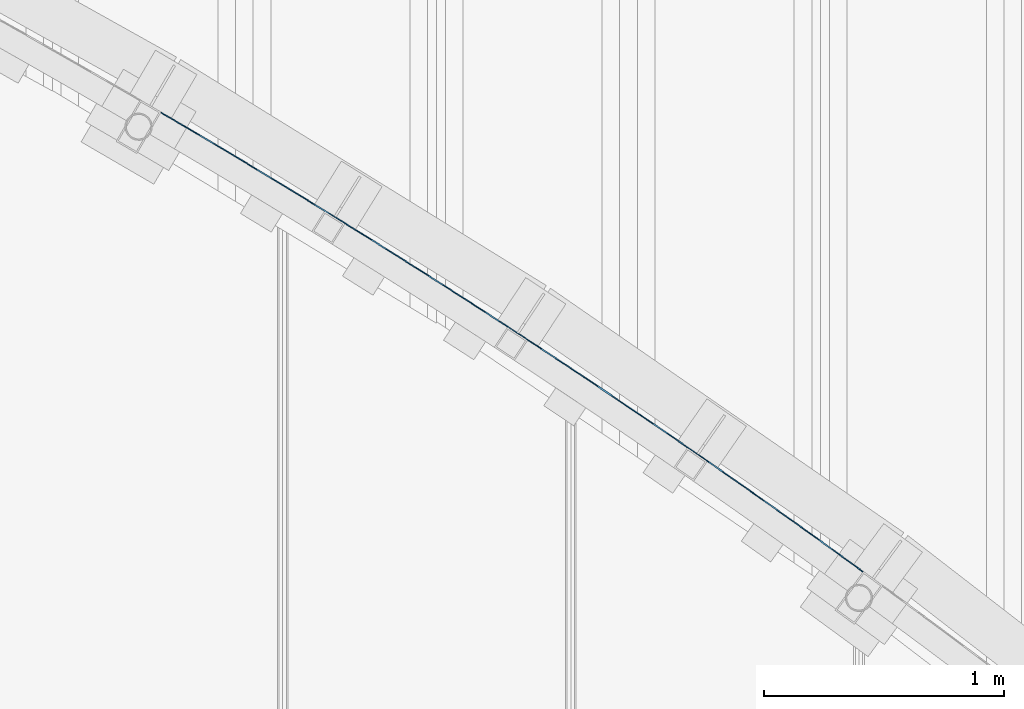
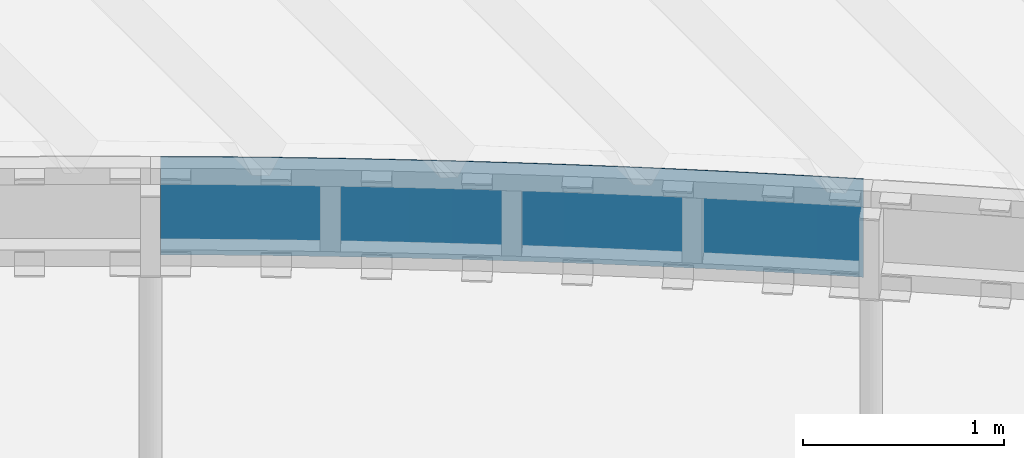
# One storey, part 16 of 98: 1 beam.
"""IFC2X3 building model written with IfcOpenShell, lengths in millimetres."""

from ifc_helpers import new_model, entity, si_unit, converted_unit, derived_unit, direction, frame, origin_with_axes, place, context, subcontext, project, spatial, faceted_brep, material, type_object, element, save


model = new_model("IFC2X3")

# Units and contexts
model_context = context("Model", 3, precision=0.01, world=frame((0.0, 4.29681676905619e-09, 0.0)), true_north=direction((4.01073788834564e-13, 1.0)))
plan_context = context("Plan", 3, precision=0.01, world=frame((0.0, 4.29681676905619e-09, 0.0)), true_north=direction((4.01073788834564e-13, 1.0)))
body_context = subcontext(model_context, "Body", "Model", "MODEL_VIEW")
ifc_project = project(units=[converted_unit("PLANEANGLEUNIT", "DEGREE", entity("IfcPositiveLengthMeasure", 0.0174532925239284), si_unit("PLANEANGLEUNIT", "RADIAN"), dimensions=[0, 0, 0, 0, 0, 0, 0]), si_unit("AREAUNIT", "SQUARE_METRE"), si_unit("LENGTHUNIT", "METRE", prefix="MILLI"), si_unit("MASSUNIT", "GRAM", prefix="KILO"), si_unit("POWERUNIT", "WATT"), si_unit("PRESSUREUNIT", "PASCAL"), si_unit("FORCEUNIT", "NEWTON", prefix="KILO"), si_unit("ELECTRICCURRENTUNIT", "AMPERE"), si_unit("THERMODYNAMICTEMPERATUREUNIT", "DEGREE_CELSIUS"), si_unit("TIMEUNIT", "SECOND"), si_unit("VOLUMEUNIT", "CUBIC_METRE"), derived_unit("LINEARVELOCITYUNIT", [(si_unit("LENGTHUNIT", "METRE"), 1), (si_unit("TIMEUNIT", "SECOND"), -1)]), derived_unit("VOLUMETRICFLOWRATEUNIT", [(si_unit("VOLUMEUNIT", "CUBIC_METRE"), 1), (si_unit("TIMEUNIT", "SECOND"), -1)]), derived_unit("THERMALTRANSMITTANCEUNIT", [(si_unit("POWERUNIT", "WATT"), 1), (si_unit("THERMODYNAMICTEMPERATUREUNIT", "KELVIN"), -1), (si_unit("AREAUNIT", "SQUARE_METRE"), -1)])], contexts=[model_context, plan_context])

# Site, building, storey
site_placement = place(None, frame((0.0, -4.29681676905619e-09, 0.0), z_axis=(0.0, 0.0, 1.0), x_axis=(1.0, 0.0, 0.0)))
site = spatial("IfcSite", under=ifc_project, at=site_placement, Name="Gardermoen", CompositionType="ELEMENT")
building_placement = place(site_placement, frame((0.0, 4.29681676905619e-09, 0.0), z_axis=(0.0, 0.0, 1.0), x_axis=(1.0, 0.0, 0.0)))
building = spatial("IfcBuilding", under=site, at=building_placement, Name="TS", CompositionType="ELEMENT")
storey_placement = place(building_placement, origin_with_axes())
storey = spatial("IfcBuildingStorey", under=building, at=storey_placement, Name="D", CompositionType="ELEMENT", Elevation=0.0)

# Beam
ifc_material = material(Name="STEEL/S355")
beam_type = type_object("IfcBeamType", Name="4*595", PredefinedType="NOTDEFINED")
beam_placement = place(storey_placement, frame((520130.490830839, 410612.540894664, 206802.5), z_axis=(0.548512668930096, 0.836142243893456, 0.0), x_axis=(0.836142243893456, -0.548512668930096, 0.0)))
element("IfcBeam", 1, at=beam_placement, inside=storey, type_object=beam_type, material=ifc_material, Name="STÅLBJELKE", ObjectType="4*595", context=body_context, shape_type="Brep", body=[
    faceted_brep([(0.100595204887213, 297.5, -1.9974685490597), (0.100595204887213, -297.5, -1.9974685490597), (-43.9060789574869, -297.5, -4.25810577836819), (-43.9060789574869, 297.5, -4.25810577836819), (-0.100595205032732, -297.5, 1.99746854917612), (-44.1190507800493, -297.5, -0.263773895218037), (-0.100595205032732, 297.5, 1.99746854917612), (-44.1190507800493, 297.5, -0.263773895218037), (69.8661052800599, 297.5, 5.45049788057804), (70.0592544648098, 297.5, 1.45516392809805), (70.0592544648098, -297.5, 1.45516392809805), (69.8661052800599, -297.5, 5.45049788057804), (139.839614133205, -297.5, 8.76269460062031), (139.839614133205, 297.5, 8.76269460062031), (140.024721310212, 297.5, 4.76697997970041), (140.024721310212, -297.5, 4.76697997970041), (209.99671229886, -297.5, 7.93796618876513), (209.819647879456, -297.5, 11.9340452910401), (209.819647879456, 297.5, 11.9340452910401), (209.99671229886, 297.5, 7.93796618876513), (279.974943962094, 297.5, 10.9681097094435), (279.974943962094, -297.5, 10.9681097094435), (279.805923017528, -297.5, 14.9645371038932), (279.805923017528, 297.5, 14.9645371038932), (349.798156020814, 297.5, 17.8541577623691), (349.959132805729, 297.5, 13.8573982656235), (349.959132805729, -297.5, 13.8573982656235), (349.798156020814, -297.5, 17.8541577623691), (419.796063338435, -297.5, 20.6028955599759), (419.796063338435, 297.5, 20.6028955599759), (419.948995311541, 297.5, 16.6058201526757), (419.948995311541, -297.5, 16.6058201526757), (489.944247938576, -297.5, 19.2133642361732), (489.799361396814, -297.5, 23.2107393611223), (489.799361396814, 297.5, 23.2107393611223), (489.944247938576, 297.5, 19.2133642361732), (559.944607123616, 297.5, 21.6800199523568), (559.944607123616, -297.5, 21.6800199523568), (559.807766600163, -297.5, 25.6776786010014), (559.807766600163, 297.5, 25.6776786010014), (629.820995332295, 297.5, 28.0037032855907), (629.94978928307, 297.5, 24.005777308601), (629.94978928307, -297.5, 24.005777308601), (629.820995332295, -297.5, 28.0037032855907), (699.838763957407, -297.5, 30.1888039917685), (699.838763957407, 297.5, 30.1888039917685), (699.959510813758, 297.5, 26.1906268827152), (699.959510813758, -297.5, 26.1906268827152), (769.973488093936, -297.5, 28.2345598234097), (769.860788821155, -297.5, 32.2329718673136), (769.860788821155, 297.5, 32.2329718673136), (769.973488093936, 297.5, 28.2345598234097), (839.99143748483, 297.5, 30.1375678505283), (839.99143748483, -297.5, 30.1375678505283), (839.88678625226, -297.5, 34.1361986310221), (839.88678625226, 297.5, 34.1361986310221), (909.916472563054, 297.5, 35.8984765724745), (910.013075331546, 297.5, 31.8996432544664), (910.013075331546, -297.5, 31.8996432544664), (909.916472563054, -297.5, 35.8984765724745), (979.949564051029, -297.5, 37.5197985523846), (979.949564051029, 297.5, 37.5197985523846), (980.038117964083, 297.5, 33.5207788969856), (980.038117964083, -297.5, 33.5207788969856), (1050.06628169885, -297.5, 35.0009682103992), (1049.98577700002, -297.5, 39.0001580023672), (1049.98577700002, 297.5, 39.0001580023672), (1050.06628169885, 297.5, 35.0009682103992), (1120.09728283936, 297.5, 36.3402051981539), (1120.09728283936, -297.5, 36.3402051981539), (1120.02482768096, -297.5, 40.3395489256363), (1120.02482768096, 297.5, 40.3395489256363), (1190.06643235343, 297.5, 41.5379658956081), (1190.13083767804, 297.5, 37.5384844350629), (1190.13083767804, -297.5, 37.5384844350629), (1190.06643235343, -297.5, 41.5379658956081), (1260.11030726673, -297.5, 42.5954040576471), (1260.11030726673, 297.5, 42.5954040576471), (1260.16666249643, 297.5, 38.5958010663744), (1260.16666249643, -297.5, 38.5958010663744), (1330.20447356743, -297.5, 39.512150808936), (1330.15616866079, -297.5, 43.511859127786), (1330.15616866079, 297.5, 43.511859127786), (1330.20447356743, 297.5, 39.512150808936), (1400.24398715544, 297.5, 40.287529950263), (1400.24398715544, -297.5, 40.287529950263), (1400.20373276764, -297.5, 44.2873273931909), (1400.20373276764, 297.5, 44.2873273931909), (1470.2527158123, 297.5, 44.9218057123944), (1470.28491951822, 297.5, 40.9219353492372), (1470.28491951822, -297.5, 40.9219353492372), (1470.2527158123, -297.5, 44.9218057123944), (1540.30283401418, -297.5, 45.4152915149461), (1540.30283401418, 297.5, 45.4152915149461), (1540.32698690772, 297.5, 41.4153644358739), (1540.32698690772, -297.5, 41.4153644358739), (1610.36990557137, -297.5, 41.7678152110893), (1610.35380358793, -297.5, 45.7677828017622), (1610.35380358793, 297.5, 45.7677828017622), (1610.36990557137, 297.5, 41.7678152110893), (1680.4133917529, 297.5, 41.9792862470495), (1680.4133917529, -297.5, 41.9792862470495), (1680.40534074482, -297.5, 45.9792781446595), (1680.40534074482, 297.5, 45.9792781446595), (1750.45716169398, 297.5, 46.049776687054), (1750.45716169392, 297.5, 42.049776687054), (1750.45716169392, -297.5, 42.049776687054), (1750.45716169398, -297.5, 46.049776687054), (1820.50898264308, -297.5, 45.9792781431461), (1820.50898264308, 297.5, 45.9792781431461), (1820.50093163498, 297.5, 41.9792862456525), (1820.50093163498, -297.5, 41.9792862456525), (1890.54441781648, -297.5, 41.7678152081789), (1890.56051980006, -297.5, 45.7677827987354), (1890.56051980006, 297.5, 45.7677827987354), (1890.54441781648, 297.5, 41.7678152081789), (1960.58733648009, 297.5, 41.4153644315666), (1960.58733648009, -297.5, 41.4153644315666), (1960.61148937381, -297.5, 45.4152915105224), (1960.61148937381, 297.5, 45.4152915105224), (2030.66160757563, 297.5, 44.9218057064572), (2030.62940386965, 297.5, 40.9219353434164), (2030.62940386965, -297.5, 40.9219353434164), (2030.66160757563, -297.5, 44.9218057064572), (2100.71059062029, -297.5, 44.2873273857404), (2100.71059062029, 297.5, 44.2873273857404), (2100.67033623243, 297.5, 40.2875299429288), (2100.67033623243, -297.5, 40.2875299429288), (2170.70984982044, -297.5, 39.5121508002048), (2170.75815472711, -297.5, 43.5118591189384), (2170.75815472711, 297.5, 43.5118591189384), (2170.70984982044, 297.5, 39.5121508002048), (2240.74766089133, 297.5, 38.5958010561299), (2240.74766089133, -297.5, 38.5958010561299), (2240.80401612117, -297.5, 42.595404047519), (2240.80401612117, 297.5, 42.595404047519), (2310.84789103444, 297.5, 41.5379658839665), (2310.78348570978, 297.5, 37.5384844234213), (2310.78348570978, -297.5, 37.5384844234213), (2310.84789103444, -297.5, 41.5379658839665), (2380.88949570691, -297.5, 40.339548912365), (2380.88949570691, 297.5, 40.339548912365), (2380.81704054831, 297.5, 36.3402051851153), (2380.81704054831, -297.5, 36.3402051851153), (2450.84804168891, -297.5, 35.0009681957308), (2450.92854638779, -297.5, 39.0001579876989), (2450.92854638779, 297.5, 39.0001579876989), (2450.84804168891, 297.5, 35.0009681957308), (2520.87620542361, 297.5, 33.5207788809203), (2520.87620542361, -297.5, 33.5207788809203), (2520.96475933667, -297.5, 37.5197985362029), (2520.96475933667, 297.5, 37.5197985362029), (2590.99785082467, 297.5, 35.8984765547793), (2590.90124805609, 297.5, 31.8996432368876), (2590.90124805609, -297.5, 31.8996432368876), (2590.99785082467, -297.5, 35.8984765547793), (2661.02753713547, -297.5, 34.13619861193), (2661.02753713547, 297.5, 34.13619861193), (2660.92288590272, 297.5, 30.1375678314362), (2660.92288590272, -297.5, 30.1375678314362), (2730.94083529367, -297.5, 28.2345598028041), (2731.05353456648, -297.5, 32.2329718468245), (2731.05353456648, 297.5, 32.2329718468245), (2730.94083529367, 297.5, 28.2345598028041), (2800.95481257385, 297.5, 26.1906268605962), (2800.95481257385, -297.5, 26.1906268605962), (2801.07555943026, -297.5, 30.1888039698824), (2801.07555943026, 297.5, 30.1888039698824), (2871.09332805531, 297.5, 28.0037032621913), (2870.96453410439, 297.5, 24.0057772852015), (2870.96453410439, -297.5, 24.0057772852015), (2871.09332805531, -297.5, 28.0037032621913), (2941.10655678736, -297.5, 25.6776785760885), (2941.10655678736, 297.5, 25.6776785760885), (2940.96971626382, 297.5, 21.6800199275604), (2940.96971626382, -297.5, 21.6800199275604), (3010.9700754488, -297.5, 19.2133642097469), (3011.11496199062, -297.5, 23.2107393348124), (3011.11496199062, 297.5, 23.2107393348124), (3010.9700754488, 297.5, 19.2133642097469), (3080.96532807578, 297.5, 16.6058201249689), (3080.96532807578, -297.5, 16.6058201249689), (3081.11826004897, -297.5, 20.6028955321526), (3081.11826004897, 297.5, 20.6028955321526), (3151.11616736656, 297.5, 17.8541577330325), (3150.95519058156, 297.5, 13.8573982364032), (3150.95519058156, -297.5, 13.8573982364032), (3151.11616736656, -297.5, 17.8541577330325), (3221.10840036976, -297.5, 14.9645370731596), (3221.10840036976, 297.5, 14.9645370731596), (3220.93937942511, 297.5, 10.9681096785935), (3220.93937942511, -297.5, 10.9681096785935), (3290.91761108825, -297.5, 7.93796615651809), (3291.09467550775, -297.5, 11.9340452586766), (3291.09467550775, 297.5, 11.9340452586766), (3290.91761108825, 297.5, 7.93796615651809), (3360.88960207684, 297.5, 4.76697994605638), (3360.88960207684, -297.5, 4.76697994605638), (3361.074709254, -297.5, 8.76269456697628), (3361.074709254, 297.5, 8.76269456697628), (3431.048218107, 297.5, 5.45049784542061), (3430.85506892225, 297.5, 1.45516389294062), (3430.85506892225, -297.5, 1.45516389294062), (3431.048218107, -297.5, 5.45049784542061), (3451.1630867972, -297.5, 4.45777943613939), (3451.1630867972, 297.5, 4.45777943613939), (3450.959671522, 297.5, 0.462952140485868), (3450.959671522, -297.5, 0.462952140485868)], [[[0, 1, 2, 3]], [[1, 4, 5, 2]], [[4, 6, 7, 5]], [[3, 2, 5, 7]], [[6, 0, 3, 7]], [[0, 6, 8, 9]], [[1, 0, 9, 10]], [[4, 1, 10, 11]], [[6, 4, 11, 8]], [[8, 11, 12, 13]], [[9, 8, 13, 14]], [[10, 9, 14, 15]], [[11, 10, 15, 12]], [[12, 15, 16, 17]], [[13, 12, 17, 18]], [[14, 13, 18, 19]], [[15, 14, 19, 16]], [[16, 19, 20, 21]], [[17, 16, 21, 22]], [[18, 17, 22, 23]], [[19, 18, 23, 20]], [[20, 23, 24, 25]], [[21, 20, 25, 26]], [[22, 21, 26, 27]], [[23, 22, 27, 24]], [[24, 27, 28, 29]], [[25, 24, 29, 30]], [[26, 25, 30, 31]], [[27, 26, 31, 28]], [[28, 31, 32, 33]], [[29, 28, 33, 34]], [[30, 29, 34, 35]], [[31, 30, 35, 32]], [[32, 35, 36, 37]], [[33, 32, 37, 38]], [[34, 33, 38, 39]], [[35, 34, 39, 36]], [[36, 39, 40, 41]], [[37, 36, 41, 42]], [[38, 37, 42, 43]], [[39, 38, 43, 40]], [[40, 43, 44, 45]], [[41, 40, 45, 46]], [[42, 41, 46, 47]], [[43, 42, 47, 44]], [[44, 47, 48, 49]], [[45, 44, 49, 50]], [[46, 45, 50, 51]], [[47, 46, 51, 48]], [[48, 51, 52, 53]], [[49, 48, 53, 54]], [[50, 49, 54, 55]], [[51, 50, 55, 52]], [[52, 55, 56, 57]], [[53, 52, 57, 58]], [[54, 53, 58, 59]], [[55, 54, 59, 56]], [[56, 59, 60, 61]], [[57, 56, 61, 62]], [[58, 57, 62, 63]], [[59, 58, 63, 60]], [[60, 63, 64, 65]], [[61, 60, 65, 66]], [[62, 61, 66, 67]], [[63, 62, 67, 64]], [[64, 67, 68, 69]], [[65, 64, 69, 70]], [[66, 65, 70, 71]], [[67, 66, 71, 68]], [[68, 71, 72, 73]], [[69, 68, 73, 74]], [[70, 69, 74, 75]], [[71, 70, 75, 72]], [[72, 75, 76, 77]], [[73, 72, 77, 78]], [[74, 73, 78, 79]], [[75, 74, 79, 76]], [[76, 79, 80, 81]], [[77, 76, 81, 82]], [[78, 77, 82, 83]], [[79, 78, 83, 80]], [[80, 83, 84, 85]], [[81, 80, 85, 86]], [[82, 81, 86, 87]], [[83, 82, 87, 84]], [[84, 87, 88, 89]], [[85, 84, 89, 90]], [[86, 85, 90, 91]], [[87, 86, 91, 88]], [[88, 91, 92, 93]], [[89, 88, 93, 94]], [[90, 89, 94, 95]], [[91, 90, 95, 92]], [[92, 95, 96, 97]], [[93, 92, 97, 98]], [[94, 93, 98, 99]], [[95, 94, 99, 96]], [[96, 99, 100, 101]], [[97, 96, 101, 102]], [[98, 97, 102, 103]], [[99, 98, 103, 100]], [[100, 103, 104, 105]], [[101, 100, 105, 106]], [[102, 101, 106, 107]], [[103, 102, 107, 104]], [[104, 107, 108, 109]], [[105, 104, 109, 110]], [[106, 105, 110, 111]], [[107, 106, 111, 108]], [[108, 111, 112, 113]], [[109, 108, 113, 114]], [[110, 109, 114, 115]], [[111, 110, 115, 112]], [[112, 115, 116, 117]], [[113, 112, 117, 118]], [[114, 113, 118, 119]], [[115, 114, 119, 116]], [[116, 119, 120, 121]], [[117, 116, 121, 122]], [[118, 117, 122, 123]], [[119, 118, 123, 120]], [[120, 123, 124, 125]], [[121, 120, 125, 126]], [[122, 121, 126, 127]], [[123, 122, 127, 124]], [[124, 127, 128, 129]], [[125, 124, 129, 130]], [[126, 125, 130, 131]], [[127, 126, 131, 128]], [[128, 131, 132, 133]], [[129, 128, 133, 134]], [[130, 129, 134, 135]], [[131, 130, 135, 132]], [[132, 135, 136, 137]], [[133, 132, 137, 138]], [[134, 133, 138, 139]], [[135, 134, 139, 136]], [[136, 139, 140, 141]], [[137, 136, 141, 142]], [[138, 137, 142, 143]], [[139, 138, 143, 140]], [[140, 143, 144, 145]], [[141, 140, 145, 146]], [[142, 141, 146, 147]], [[143, 142, 147, 144]], [[144, 147, 148, 149]], [[145, 144, 149, 150]], [[146, 145, 150, 151]], [[147, 146, 151, 148]], [[148, 151, 152, 153]], [[149, 148, 153, 154]], [[150, 149, 154, 155]], [[151, 150, 155, 152]], [[152, 155, 156, 157]], [[153, 152, 157, 158]], [[154, 153, 158, 159]], [[155, 154, 159, 156]], [[156, 159, 160, 161]], [[157, 156, 161, 162]], [[158, 157, 162, 163]], [[159, 158, 163, 160]], [[160, 163, 164, 165]], [[161, 160, 165, 166]], [[162, 161, 166, 167]], [[163, 162, 167, 164]], [[164, 167, 168, 169]], [[165, 164, 169, 170]], [[166, 165, 170, 171]], [[167, 166, 171, 168]], [[168, 171, 172, 173]], [[169, 168, 173, 174]], [[170, 169, 174, 175]], [[171, 170, 175, 172]], [[172, 175, 176, 177]], [[173, 172, 177, 178]], [[174, 173, 178, 179]], [[175, 174, 179, 176]], [[176, 179, 180, 181]], [[177, 176, 181, 182]], [[178, 177, 182, 183]], [[179, 178, 183, 180]], [[180, 183, 184, 185]], [[181, 180, 185, 186]], [[182, 181, 186, 187]], [[183, 182, 187, 184]], [[184, 187, 188, 189]], [[185, 184, 189, 190]], [[186, 185, 190, 191]], [[187, 186, 191, 188]], [[188, 191, 192, 193]], [[189, 188, 193, 194]], [[190, 189, 194, 195]], [[191, 190, 195, 192]], [[192, 195, 196, 197]], [[193, 192, 197, 198]], [[194, 193, 198, 199]], [[195, 194, 199, 196]], [[196, 199, 200, 201]], [[197, 196, 201, 202]], [[198, 197, 202, 203]], [[199, 198, 203, 200]], [[200, 203, 204, 205]], [[201, 200, 205, 206]], [[202, 201, 206, 207]], [[203, 202, 207, 204]], [[206, 205, 204, 207]]]),
])

save(model, "model.ifc")
